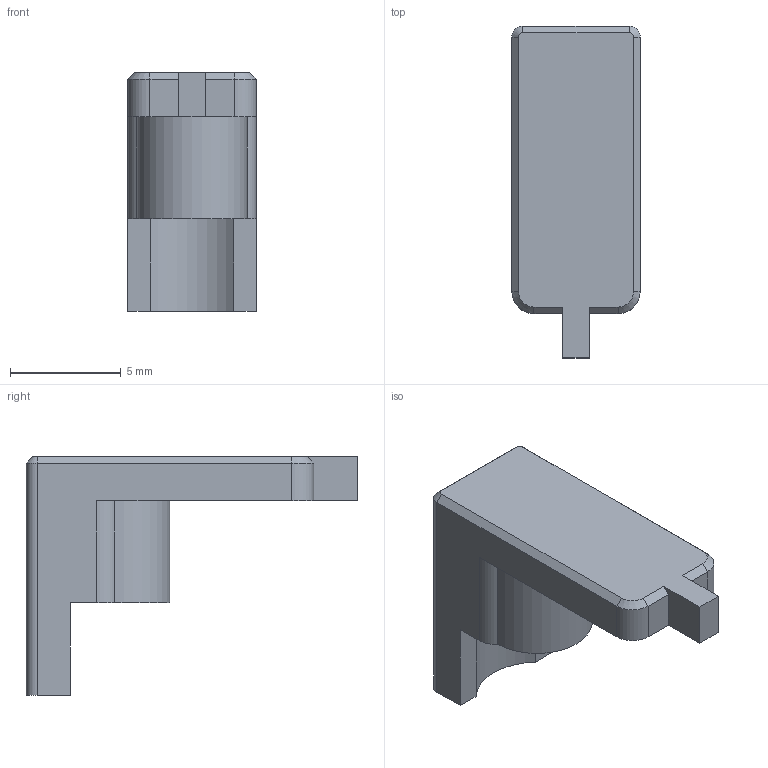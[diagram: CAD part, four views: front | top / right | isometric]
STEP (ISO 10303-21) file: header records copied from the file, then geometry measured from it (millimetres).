
FILE_DESCRIPTION((''),'2;1');
FILE_NAME('0005_10_GGG','2025-04-09T12:16:23',('Administrator'),(''),'CREO PARAMETRIC BY PTC INC, 2024063','CREO PARAMETRIC BY PTC INC, 2024063','');
FILE_SCHEMA(('CONFIG_CONTROL_DESIGN'));
Length unit declared in the file: millimetre
Products named in the file (1): 0005_10_GGG
Bounding box: 5.8 x 15 x 10.8 mm (x, y, z)
Volume: 304.2 mm3; surface area: 442.7 mm2
Topology: 1 solids, 1 shells, 39 faces, 100 edges, 65 vertices
Faces by surface type: plane 23, cylinder 11, cone 5
Entity records: 1229 total; most frequent: CARTESIAN_POINT 215, DIRECTION 206, ORIENTED_EDGE 200, EDGE_CURVE 100, AXIS2_PLACEMENT_3D 69, VECTOR 68, LINE 68, VERTEX_POINT 65
